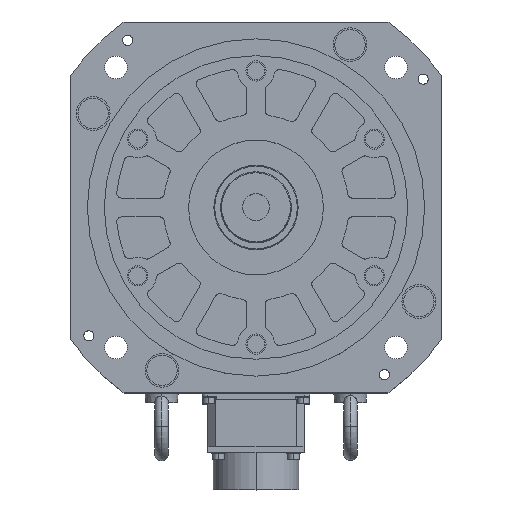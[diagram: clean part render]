
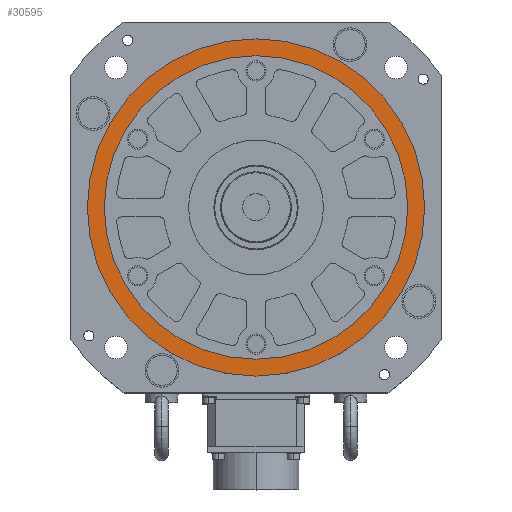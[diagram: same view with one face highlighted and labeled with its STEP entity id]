
A CAD part, top view. The second image highlights one B-rep face of the part: STEP entity #30595.
In plain terms, the highlighted planar face has unit normal (0, 0, 1).
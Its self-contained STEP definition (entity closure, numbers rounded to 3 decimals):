
#476 = DIRECTION ( 'NONE',  ( 1., 0., 0. ) ) ;
#504 = EDGE_CURVE ( 'NONE', #18829, #26695, #20591, .T. ) ;
#2025 = EDGE_CURVE ( 'NONE', #13443, #29697, #25885, .T. ) ;
#2088 = EDGE_CURVE ( 'NONE', #29697, #13443, #24956, .T. ) ;
#4521 = AXIS2_PLACEMENT_3D ( 'NONE', #32257, #32015, #5924 ) ;
#5924 = DIRECTION ( 'NONE',  ( 1., 0., 0. ) ) ;
#6574 = ORIENTED_EDGE ( 'NONE', *, *, #2025, .F. ) ;
#7377 = DIRECTION ( 'NONE',  ( 0., 0., 1. ) ) ;
#7653 = FACE_BOUND ( 'NONE', #12096, .T. ) ;
#8179 = ORIENTED_EDGE ( 'NONE', *, *, #33447, .T. ) ;
#9872 = CARTESIAN_POINT ( 'NONE',  ( -90., 0., 4. ) ) ;
#11658 = CARTESIAN_POINT ( 'NONE',  ( 0., 0., 4. ) ) ;
#12096 = EDGE_LOOP ( 'NONE', ( #31567, #6574 ) ) ;
#12238 = FACE_OUTER_BOUND ( 'NONE', #30446, .T. ) ;
#12377 = CARTESIAN_POINT ( 'NONE',  ( 0., 0., 4. ) ) ;
#13443 = VERTEX_POINT ( 'NONE', #9872 ) ;
#14346 = PLANE ( 'NONE',  #37446 ) ;
#15028 = AXIS2_PLACEMENT_3D ( 'NONE', #28587, #34056, #22893 ) ;
#15181 = DIRECTION ( 'NONE',  ( 0., 0., 1. ) ) ;
#18126 = CARTESIAN_POINT ( 'NONE',  ( 90., 0., 4. ) ) ;
#18829 = VERTEX_POINT ( 'NONE', #31313 ) ;
#19066 = AXIS2_PLACEMENT_3D ( 'NONE', #12377, #15181, #476 ) ;
#20591 = CIRCLE ( 'NONE', #36141, 100. ) ;
#20701 = CARTESIAN_POINT ( 'NONE',  ( -100., 0., 4. ) ) ;
#22893 = DIRECTION ( 'NONE',  ( 1., 0., 0. ) ) ;
#24609 = CARTESIAN_POINT ( 'NONE',  ( 0., 0., 4. ) ) ;
#24956 = CIRCLE ( 'NONE', #4521, 90. ) ;
#25660 = ORIENTED_EDGE ( 'NONE', *, *, #504, .T. ) ;
#25885 = CIRCLE ( 'NONE', #15028, 90. ) ;
#26695 = VERTEX_POINT ( 'NONE', #20701 ) ;
#28146 = CIRCLE ( 'NONE', #19066, 100. ) ;
#28587 = CARTESIAN_POINT ( 'NONE',  ( 0., 0., 4. ) ) ;
#29210 = DIRECTION ( 'NONE',  ( 1., 0., 0. ) ) ;
#29697 = VERTEX_POINT ( 'NONE', #18126 ) ;
#30446 = EDGE_LOOP ( 'NONE', ( #8179, #25660 ) ) ;
#30595 = ADVANCED_FACE ( 'NONE', ( #7653, #12238 ), #14346, .T. ) ;
#31313 = CARTESIAN_POINT ( 'NONE',  ( 100., 0., 4. ) ) ;
#31567 = ORIENTED_EDGE ( 'NONE', *, *, #2088, .F. ) ;
#32015 = DIRECTION ( 'NONE',  ( 0., 0., 1. ) ) ;
#32257 = CARTESIAN_POINT ( 'NONE',  ( 0., 0., 4. ) ) ;
#33332 = DIRECTION ( 'NONE',  ( 1., 0., 0. ) ) ;
#33447 = EDGE_CURVE ( 'NONE', #26695, #18829, #28146, .T. ) ;
#34056 = DIRECTION ( 'NONE',  ( 0., 0., 1. ) ) ;
#36141 = AXIS2_PLACEMENT_3D ( 'NONE', #24609, #7377, #33332 ) ;
#37440 = DIRECTION ( 'NONE',  ( 0., 0., 1. ) ) ;
#37446 = AXIS2_PLACEMENT_3D ( 'NONE', #11658, #37440, #29210 ) ;
